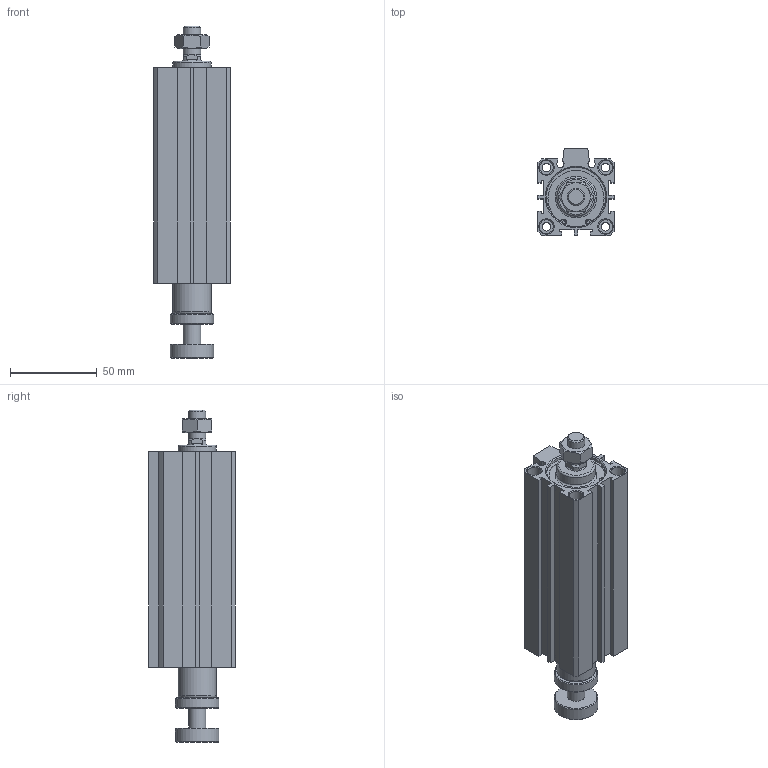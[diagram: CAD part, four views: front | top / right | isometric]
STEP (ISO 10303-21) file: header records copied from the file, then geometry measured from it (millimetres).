
FILE_DESCRIPTION((''),'2;1');
FILE_NAME('I:\3D電子目錄\氣缸\JDAR\JDAR-BS\JDAR32-BS\JDAR32x90-BS.stp','2007-05-05T11:57:11',('662F206'),(''),'Autodesk Inventor 11','Autodesk Inventor 11','');
FILE_SCHEMA(('AUTOMOTIVE_DESIGN { 1 0 10303 214 1 1 1 1 }'));
Length unit declared in the file: millimetre
Products named in the file (3): JDAR32-BS; R 形環 35
Assembly tree (3 placements, depth 2):
  JDAR32-BS
    JDAR32-BS
    R 形環 35  x2
Bounding box: 44 x 50 x 191.1 mm (x, y, z)
Volume: 229224.3 mm3; surface area: 52811.9 mm2
Topology: 3 solids, 3 shells, 180 faces, 421 edges, 273 vertices
Faces by surface type: plane 98, cylinder 53, cone 25, bspline 2, torus 2
Full cylindrical faces by diameter (mm): 1.9 x4, 2.2 x2, 5.1 x4, 8 x8, 10 x3, 22 x2, 25 x2, 34 x4, 36 x2
Entity records: 4639 total; most frequent: CARTESIAN_POINT 882, DIRECTION 784, ORIENTED_EDGE 664, EDGE_CURVE 332, AXIS2_PLACEMENT_3D 300, EDGE_LOOP 260, VERTEX_POINT 248, VECTOR 184
